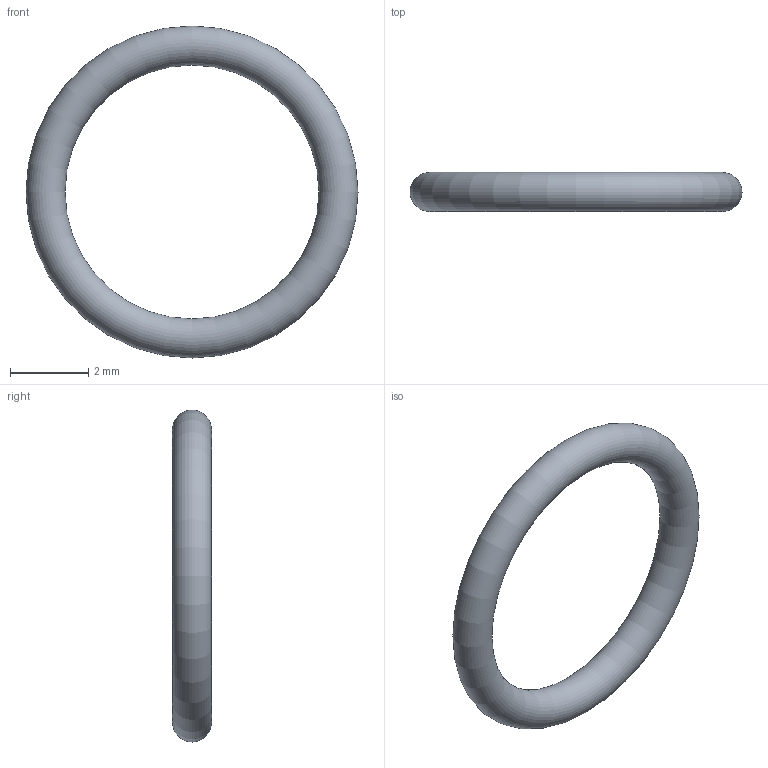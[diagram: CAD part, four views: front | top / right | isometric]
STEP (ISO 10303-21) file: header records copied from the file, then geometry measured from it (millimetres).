
FILE_DESCRIPTION( ( 'STEP AP203' ), '1' );
FILE_NAME( 'C:/Temp/Ganter_Step_05_03_2020/data/3_5/or638/O-Ring OR638-6.50-1.00-70.stp', '2020-03-12T13:44:15', ( 'License CC BY-ND 4.0' ), ( 'CADENAS' ), ' ', 'PARTsolutions', ' ' );
FILE_SCHEMA( ( 'CONFIG_CONTROL_DESIGN' ) );
Length unit declared in the file: millimetre
Products named in the file (1): _O-Ring OR638-6.50-1.00-70
Bounding box: 8.5 x 1 x 8.5 mm (x, y, z)
Volume: 18.5 mm3; surface area: 74 mm2
Topology: 1 solids, 1 shells, 1 faces, 2 edges, 1 vertices
Faces by surface type: torus 1
Entity records: 62 total; most frequent: CC_DESIGN_PERSON_AND_ORGANIZATION_ASSIGNMENT 5, PERSON_AND_ORGANIZATION_ROLE 4, DIRECTION 4, CARTESIAN_POINT 3, DATE_TIME_ROLE 2, CC_DESIGN_DATE_AND_TIME_ASSIGNMENT 2, AXIS2_PLACEMENT_3D 2, DIMENSIONAL_EXPONENTS 2
